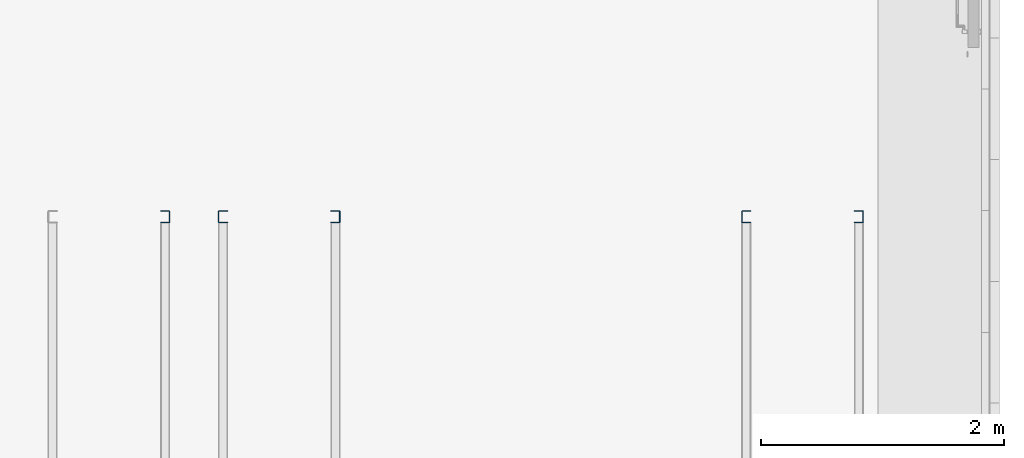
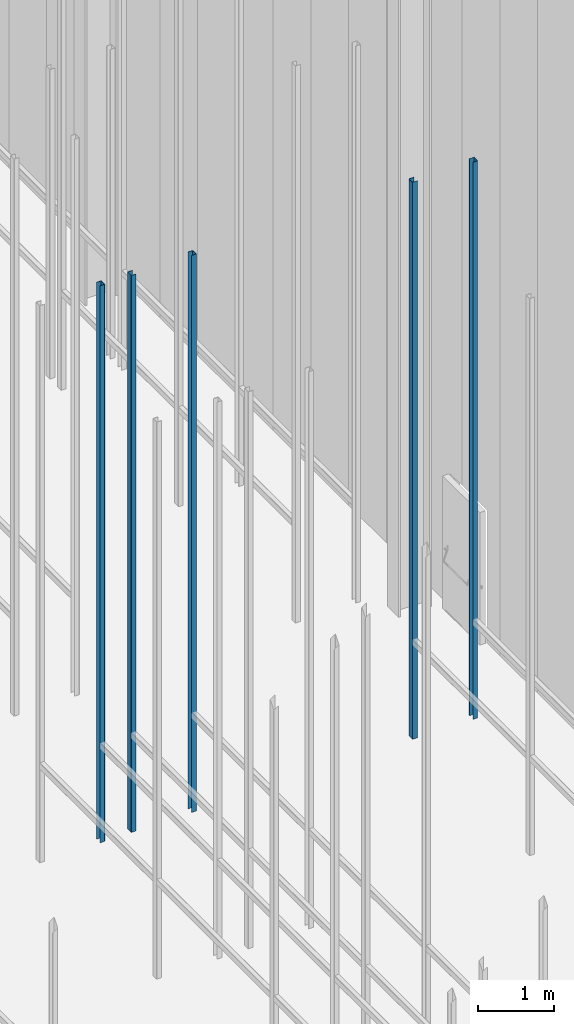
# One storey, part 31 of 302: 5 columns.
"""IFC2X3 building model written with IfcOpenShell, lengths in metres."""

from ifc_helpers import new_model, entity, si_unit, converted_unit, derived_unit, direction, frame, frame_2d, origin, place, context, subcontext, project, spatial, polyline, circle_curve, parameter, trimmed, segment, composite_curve, outline, extrude, source, transform, mapped, material, type_object, type_shapes, element, save


model = new_model("IFC2X3")

# Units and contexts
model_context = context("Model", 3, precision=1e-05, world=origin(), true_north=direction((6.12303176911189e-17, 1.0)))
body_context = subcontext(model_context, "Body", "Model", "MODEL_VIEW")
ifc_project = project(units=[si_unit("LENGTHUNIT", "METRE"), si_unit("AREAUNIT", "SQUARE_METRE"), si_unit("VOLUMEUNIT", "CUBIC_METRE"), converted_unit("PLANEANGLEUNIT", "DEGREE", entity("IfcRatioMeasure", 0.0174532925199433), si_unit("PLANEANGLEUNIT", "RADIAN"), dimensions=[0, 0, 0, 0, 0, 0, 0]), si_unit("MASSUNIT", "GRAM", prefix="KILO"), derived_unit("MASSDENSITYUNIT", [(si_unit("MASSUNIT", "GRAM", prefix="KILO"), 1), (si_unit("LENGTHUNIT", "METRE"), -3)]), derived_unit("MOMENTOFINERTIAUNIT", [(si_unit("LENGTHUNIT", "METRE"), 4)]), si_unit("TIMEUNIT", "SECOND"), si_unit("FREQUENCYUNIT", "HERTZ"), si_unit("THERMODYNAMICTEMPERATUREUNIT", "DEGREE_CELSIUS"), derived_unit("THERMALTRANSMITTANCEUNIT", [(si_unit("MASSUNIT", "GRAM", prefix="KILO"), 1), (si_unit("THERMODYNAMICTEMPERATUREUNIT", "KELVIN"), -1), (si_unit("TIMEUNIT", "SECOND"), -3)]), derived_unit("VOLUMETRICFLOWRATEUNIT", [(si_unit("LENGTHUNIT", "METRE"), 3), (si_unit("TIMEUNIT", "SECOND"), -1)]), si_unit("ELECTRICCURRENTUNIT", "AMPERE"), si_unit("ELECTRICVOLTAGEUNIT", "VOLT"), si_unit("POWERUNIT", "WATT"), si_unit("FORCEUNIT", "NEWTON", prefix="KILO"), si_unit("ILLUMINANCEUNIT", "LUX"), si_unit("LUMINOUSFLUXUNIT", "LUMEN"), si_unit("LUMINOUSINTENSITYUNIT", "CANDELA"), derived_unit("USERDEFINED", [(si_unit("MASSUNIT", "GRAM", prefix="KILO"), -1), (si_unit("LENGTHUNIT", "METRE"), -2), (si_unit("TIMEUNIT", "SECOND"), 3), (si_unit("LUMINOUSFLUXUNIT", "LUMEN"), 1)]), derived_unit("LINEARVELOCITYUNIT", [(si_unit("LENGTHUNIT", "METRE"), 1), (si_unit("TIMEUNIT", "SECOND"), -1)]), si_unit("PRESSUREUNIT", "PASCAL"), derived_unit("USERDEFINED", [(si_unit("LENGTHUNIT", "METRE"), -2), (si_unit("MASSUNIT", "GRAM", prefix="KILO"), 1), (si_unit("TIMEUNIT", "SECOND"), -2)]), derived_unit("LINEARFORCEUNIT", [(si_unit("MASSUNIT", "GRAM", prefix="KILO"), 1), (si_unit("LENGTHUNIT", "METRE"), 1), (si_unit("TIMEUNIT", "SECOND"), -2), (si_unit("LENGTHUNIT", "METRE"), -1)]), derived_unit("PLANARFORCEUNIT", [(si_unit("MASSUNIT", "GRAM", prefix="KILO"), 1), (si_unit("LENGTHUNIT", "METRE"), 1), (si_unit("TIMEUNIT", "SECOND"), -2), (si_unit("LENGTHUNIT", "METRE"), -2)])], contexts=[model_context])

# Site, building, storey
site_placement = place(None, origin())
site = spatial("IfcSite", under=ifc_project, at=site_placement, Name="Default", CompositionType="ELEMENT")
building_placement = place(site_placement, origin())
building = spatial("IfcBuilding", under=site, at=building_placement, CompositionType="ELEMENT")
storey_placement = place(building_placement, frame((0.0, 0.0, -1.3)))
storey = spatial("IfcBuildingStorey", under=building, at=storey_placement, Name="00_EG", CompositionType="ELEMENT", Elevation=-1.3)

# Columns
ifc_material = material(Name="Metall - Baustahl S235")
column_type_1 = type_object("IfcColumnType", Name="Leichter Stahl Schlossschrauben Stütze:C 100", PredefinedType="COLUMN", material=ifc_material)
shared_shape_1 = source(origin(), body_context, "Body", "SweptSolid", [
    extrude(outline(composite_curve([segment(polyline([(-0.0469749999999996, -0.0499999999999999), (0.0214500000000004, -0.0499999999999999)]), True, "CONTINUOUS"), segment(trimmed(circle_curve(frame_2d((0.0214500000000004, -0.0434249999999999), x_axis=(0.0, -1.0)), 0.00657500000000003), [parameter(0.0)], [parameter(89.9999999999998)], True, "PARAMETER"), True, "CONTINUOUS"), segment(polyline([(0.0280250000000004, -0.0434249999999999), (0.0280250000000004, 0.0434250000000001)]), True, "CONTINUOUS"), segment(trimmed(circle_curve(frame_2d((0.0214500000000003, 0.0434250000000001), x_axis=(1.0, 0.0)), 0.0065750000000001), [parameter(0.0)], [parameter(89.9999999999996)], True, "PARAMETER"), True, "CONTINUOUS"), segment(polyline([(0.0214500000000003, 0.0500000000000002), (-0.0469750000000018, 0.0500000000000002)]), True, "CONTINUOUS"), segment(polyline([(-0.0469750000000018, 0.0500000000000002), (-0.0469750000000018, 0.0450000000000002)]), True, "CONTINUOUS"), segment(polyline([(-0.0469750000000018, 0.0450000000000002), (0.0214500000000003, 0.0450000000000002)]), True, "CONTINUOUS"), segment(trimmed(circle_curve(frame_2d((0.0214500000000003, 0.0434249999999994), x_axis=(0.0, 1.0)), 0.00157500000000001), [parameter(269.999999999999)], [parameter(0.0)], True, "PARAMETER"), False, "CONTINUOUS"), segment(polyline([(0.0230250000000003, 0.0434249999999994), (0.0230250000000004, -0.0434249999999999)]), True, "CONTINUOUS"), segment(trimmed(circle_curve(frame_2d((0.0214500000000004, -0.0434249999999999), x_axis=(1.0, 0.0)), 0.00157500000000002), [parameter(270.0)], [parameter(0.0)], True, "PARAMETER"), False, "CONTINUOUS"), segment(polyline([(0.0214500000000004, -0.0449999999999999), (-0.0469749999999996, -0.0449999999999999)]), True, "CONTINUOUS"), segment(polyline([(-0.0469749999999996, -0.0449999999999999), (-0.0469749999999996, -0.0499999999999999)]), True, "CONTINUOUS")], self_intersect=False)), frame((0.0499999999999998, 0.0280250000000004, -0.0300000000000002), z_axis=(0.0, 0.0, 1.0), x_axis=(0.0, -1.0, 0.0)), (0.0, 0.0, 1.0), 9.0),
])
type_shapes(column_type_1, [shared_shape_1])
for number, where, z_axis, x_axis in (
    (1, (-183.690111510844, 45.748088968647, 1.3), (0.0, 0.0, 1.0), (0.0, -1.0, 0.0)),
    (2, (-179.390111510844, 45.748088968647, 1.3), (0.0, 0.0, 1.0), (0.0, -1.0, 0.0)),
):
    element("IfcColumn", number, at=place(storey_placement, frame(where, z_axis=z_axis, x_axis=x_axis)), inside=storey, type_object=column_type_1, material=ifc_material, Name="Leichter Stahl Schlossschrauben Stütze:C 100", ObjectType="Leichter Stahl Schlossschrauben Stütze:C 100", context=body_context, shape_type="MappedRepresentation", body=[
        mapped(shared_shape_1, transform((0.0, 0.0, 0.0), scale=1.0)),
    ])
column_type_2 = type_object("IfcColumnType", Name="Leichter Stahl Schlossschrauben Stütze:C 100", PredefinedType="COLUMN", material=ifc_material)
shared_shape_2 = source(origin(), body_context, "Body", "SweptSolid", [
    extrude(outline(composite_curve([segment(polyline([(-0.0214500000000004, -0.0499999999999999), (0.0469749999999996, -0.0499999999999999)]), True, "CONTINUOUS"), segment(polyline([(0.0469749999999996, -0.0499999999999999), (0.0469749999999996, -0.0449999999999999)]), True, "CONTINUOUS"), segment(polyline([(0.0469749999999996, -0.0449999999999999), (-0.0214500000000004, -0.045)]), True, "CONTINUOUS"), segment(trimmed(circle_curve(frame_2d((-0.0214500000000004, -0.043425), x_axis=(0.0, -1.0)), 0.00157500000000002), [parameter(270.0)], [parameter(0.0)], True, "PARAMETER"), False, "CONTINUOUS"), segment(polyline([(-0.0230250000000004, -0.0434249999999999), (-0.0230250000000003, 0.0434249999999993)]), True, "CONTINUOUS"), segment(trimmed(circle_curve(frame_2d((-0.0214500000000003, 0.0434249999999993), x_axis=(-1.0, 0.0)), 0.00157500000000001), [parameter(269.999999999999)], [parameter(0.0)], True, "PARAMETER"), False, "CONTINUOUS"), segment(polyline([(-0.0214500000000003, 0.0450000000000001), (0.0469750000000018, 0.0450000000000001)]), True, "CONTINUOUS"), segment(polyline([(0.0469750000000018, 0.0450000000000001), (0.0469750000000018, 0.0500000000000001)]), True, "CONTINUOUS"), segment(polyline([(0.0469750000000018, 0.0500000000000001), (-0.0214500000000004, 0.0500000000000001)]), True, "CONTINUOUS"), segment(trimmed(circle_curve(frame_2d((-0.0214500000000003, 0.043425), x_axis=(0.0, 1.0)), 0.0065750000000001), [parameter(0.0)], [parameter(89.9999999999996)], True, "PARAMETER"), True, "CONTINUOUS"), segment(polyline([(-0.0280250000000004, 0.043425), (-0.0280250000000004, -0.043425)]), True, "CONTINUOUS"), segment(trimmed(circle_curve(frame_2d((-0.0214500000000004, -0.0434249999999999), x_axis=(-1.0, 0.0)), 0.00657500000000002), [parameter(0.0)], [parameter(89.9999999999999)], True, "PARAMETER"), True, "CONTINUOUS")], self_intersect=False)), frame((0.0499999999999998, -0.0280250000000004, -0.0300000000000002), z_axis=(0.0, 0.0, 1.0), x_axis=(0.0, -1.0, 0.0)), (0.0, 0.0, 1.0), 9.0),
])
type_shapes(column_type_2, [shared_shape_2])
for number, where, z_axis, x_axis in (
    (3, (-184.090111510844, 45.748088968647, 1.3), (0.0, 0.0, 1.0), (0.0, -1.0, 0.0)),
    (4, (-182.690111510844, 45.748088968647, 1.3), (0.0, 0.0, 1.0), (0.0, -1.0, 0.0)),
    (5, (-178.390111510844, 45.748088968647, 1.3), (0.0, 0.0, 1.0), (0.0, -1.0, 0.0)),
):
    element("IfcColumn", number, at=place(storey_placement, frame(where, z_axis=z_axis, x_axis=x_axis)), inside=storey, type_object=column_type_2, material=ifc_material, Name="Leichter Stahl Schlossschrauben Stütze:C 100", ObjectType="Leichter Stahl Schlossschrauben Stütze:C 100", context=body_context, shape_type="MappedRepresentation", body=[
        mapped(shared_shape_2, transform((0.0, 0.0, 0.0), scale=1.0)),
    ])

save(model, "model.ifc")
